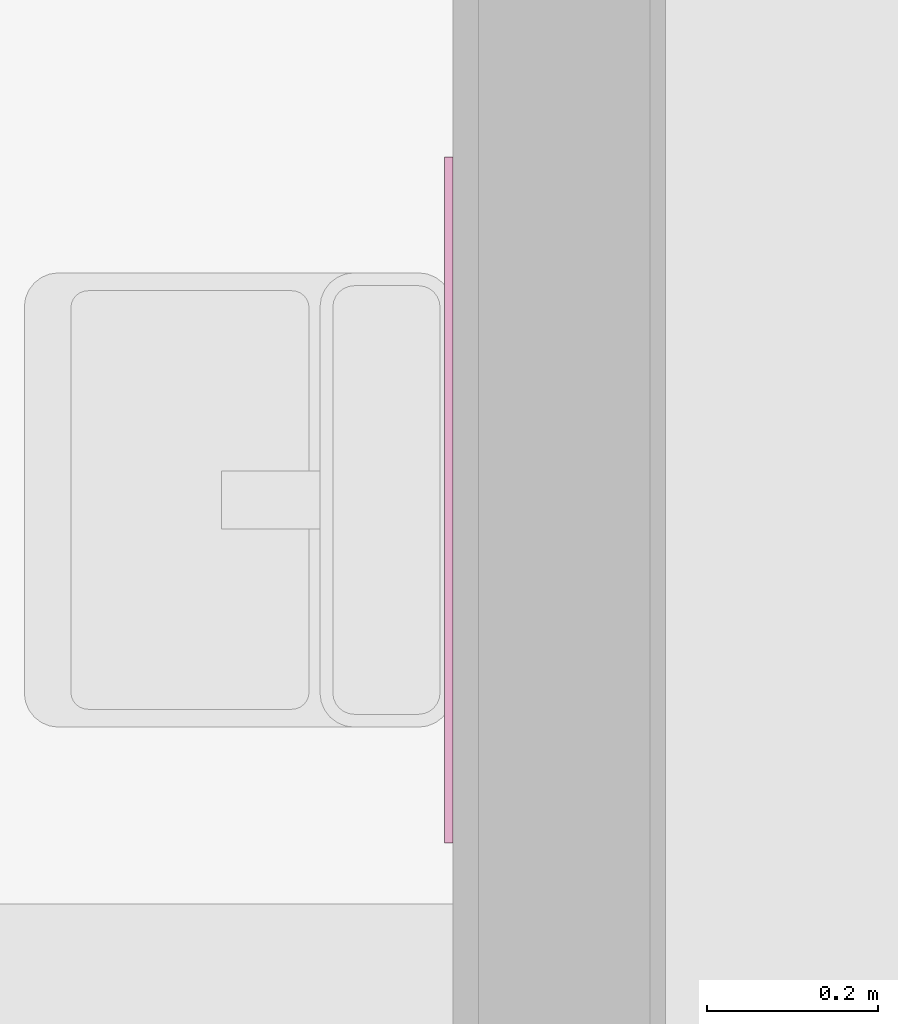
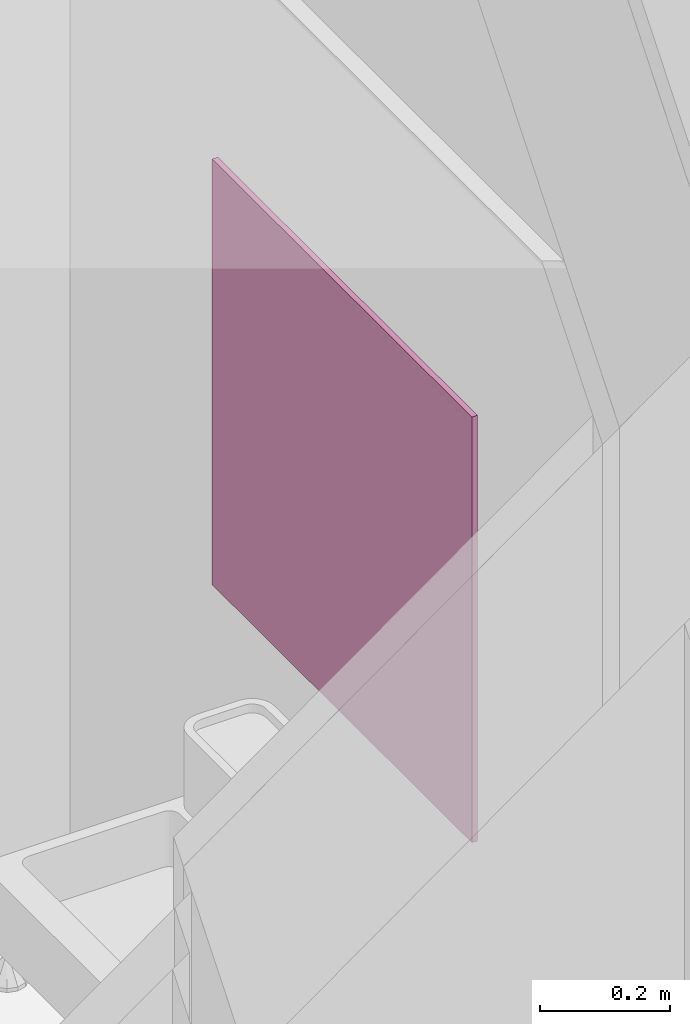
# One storey, part 95 of 100: 1 furnishing.
"""IFC2X3 building model written with IfcOpenShell, lengths in millimetres."""

from ifc_helpers import new_model, entity, si_unit, converted_unit, derived_unit, direction, frame, origin, origin_2d_with_axis, place, context, subcontext, project, spatial, rectangle, extrude, source, transform, mapped, material, type_object, type_shapes, element, save


model = new_model("IFC2X3")

# Units and contexts
model_context = context("Model", 3, precision=0.01, world=origin(), true_north=direction((6.123031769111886e-17, 1.0)))
body_context = subcontext(model_context, "Body", "Model", "MODEL_VIEW")
ifc_project = project(units=[si_unit("LENGTHUNIT", "METRE", prefix="MILLI"), si_unit("AREAUNIT", "SQUARE_METRE"), si_unit("VOLUMEUNIT", "CUBIC_METRE"), converted_unit("PLANEANGLEUNIT", "DEGREE", entity("IfcRatioMeasure", 0.017453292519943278), si_unit("PLANEANGLEUNIT", "RADIAN"), dimensions=[0, 0, 0, 0, 0, 0, 0]), si_unit("MASSUNIT", "GRAM", prefix="KILO"), derived_unit("MASSDENSITYUNIT", [(si_unit("MASSUNIT", "GRAM", prefix="KILO"), 1), (si_unit("LENGTHUNIT", "METRE"), -3)]), derived_unit("MOMENTOFINERTIAUNIT", [(si_unit("LENGTHUNIT", "METRE"), 4)]), si_unit("TIMEUNIT", "SECOND"), si_unit("FREQUENCYUNIT", "HERTZ"), si_unit("THERMODYNAMICTEMPERATUREUNIT", "DEGREE_CELSIUS"), derived_unit("THERMALTRANSMITTANCEUNIT", [(si_unit("MASSUNIT", "GRAM", prefix="KILO"), 1), (si_unit("THERMODYNAMICTEMPERATUREUNIT", "KELVIN"), -1), (si_unit("TIMEUNIT", "SECOND"), -3)]), derived_unit("VOLUMETRICFLOWRATEUNIT", [(si_unit("LENGTHUNIT", "METRE"), 3), (si_unit("TIMEUNIT", "SECOND"), -1)]), derived_unit("MASSFLOWRATEUNIT", [(si_unit("MASSUNIT", "GRAM", prefix="KILO"), 1), (si_unit("TIMEUNIT", "SECOND"), -1)]), derived_unit("ROTATIONALFREQUENCYUNIT", [(si_unit("TIMEUNIT", "SECOND"), -1)]), si_unit("ELECTRICCURRENTUNIT", "AMPERE"), si_unit("ELECTRICVOLTAGEUNIT", "VOLT"), si_unit("POWERUNIT", "WATT"), si_unit("FORCEUNIT", "NEWTON", prefix="KILO"), si_unit("ILLUMINANCEUNIT", "LUX"), si_unit("LUMINOUSFLUXUNIT", "LUMEN"), si_unit("LUMINOUSINTENSITYUNIT", "CANDELA"), derived_unit("USERDEFINED", [(si_unit("MASSUNIT", "GRAM", prefix="KILO"), -1), (si_unit("LENGTHUNIT", "METRE"), -2), (si_unit("TIMEUNIT", "SECOND"), 3), (si_unit("LUMINOUSFLUXUNIT", "LUMEN"), 1)]), derived_unit("SOUNDPOWERUNIT", [(si_unit("MASSUNIT", "GRAM", prefix="KILO"), 1), (si_unit("LENGTHUNIT", "METRE"), 2), (si_unit("TIMEUNIT", "SECOND"), -3)]), derived_unit("SOUNDPRESSUREUNIT", [(si_unit("MASSUNIT", "GRAM", prefix="KILO"), 1), (si_unit("LENGTHUNIT", "METRE"), -1), (si_unit("TIMEUNIT", "SECOND"), -2)]), derived_unit("LINEARVELOCITYUNIT", [(si_unit("LENGTHUNIT", "METRE"), 1), (si_unit("TIMEUNIT", "SECOND"), -1)]), si_unit("PRESSUREUNIT", "PASCAL"), derived_unit("USERDEFINED", [(si_unit("LENGTHUNIT", "METRE"), -2), (si_unit("MASSUNIT", "GRAM", prefix="KILO"), 1), (si_unit("TIMEUNIT", "SECOND"), -2)]), derived_unit("LINEARFORCEUNIT", [(si_unit("MASSUNIT", "GRAM", prefix="KILO"), 1), (si_unit("LENGTHUNIT", "METRE"), 1), (si_unit("TIMEUNIT", "SECOND"), -2), (si_unit("LENGTHUNIT", "METRE"), -1)]), derived_unit("PLANARFORCEUNIT", [(si_unit("MASSUNIT", "GRAM", prefix="KILO"), 1), (si_unit("LENGTHUNIT", "METRE"), 1), (si_unit("TIMEUNIT", "SECOND"), -2), (si_unit("LENGTHUNIT", "METRE"), -2)])], contexts=[model_context])

# Site, building, storey, space
site_placement = place(None, frame((-14167.972527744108, -657.2125860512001, 0.0)))
site = spatial("IfcSite", under=ifc_project, at=site_placement, Name="Default", CompositionType="ELEMENT")
building_placement = place(site_placement, origin())
building = spatial("IfcBuilding", under=site, at=building_placement, Name="Sample Building", CompositionType="ELEMENT")
storey_placement = place(building_placement, origin())
storey = spatial("IfcBuildingStorey", under=building, at=storey_placement, Name="지상 1층", CompositionType="ELEMENT", Elevation=0.0)
space_placement = place(storey_placement, origin())
space = spatial("IfcSpace", under=storey, at=space_placement, Name="171", CompositionType="ELEMENT", InteriorOrExteriorSpace="INTERNAL")

# Furnishing
ifc_material = material(Name="KBIMS-거울")
furniture_type = type_object("IfcFurnitureType", Name="PF531-거울:PF531-거울 800x800", material=ifc_material)
shared_shape = source(origin(), body_context, "Body", "SweptSolid", [
    extrude(rectangle(XDim=10.000000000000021, YDim=799.9999999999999, at=origin_2d_with_axis()), frame((0.0, 5.0, 0.0), z_axis=(0.0, 0.0, 1.0), x_axis=(0.0, 1.0, 0.0)), (0.0, 0.0, 1.0), 800.0000000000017),
])
type_shapes(furniture_type, [shared_shape])
furnishing_placement = place(space_placement, frame((40737.96375501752, 23242.21230182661, 490.0), z_axis=(0.0, 0.0, 1.0), x_axis=(0.0, 1.0, 0.0)))
element("IfcFurnishingElement", 1, at=furnishing_placement, inside=space, type_object=furniture_type, material=ifc_material, Name="PF531-거울:PF531-거울 800x800", ObjectType="PF531-거울:PF531-거울 800x800", context=body_context, shape_type="MappedRepresentation", body=[
    mapped(shared_shape, transform((0.0, 0.0, 0.0), scale=1.0)),
])

save(model, "model.ifc")
